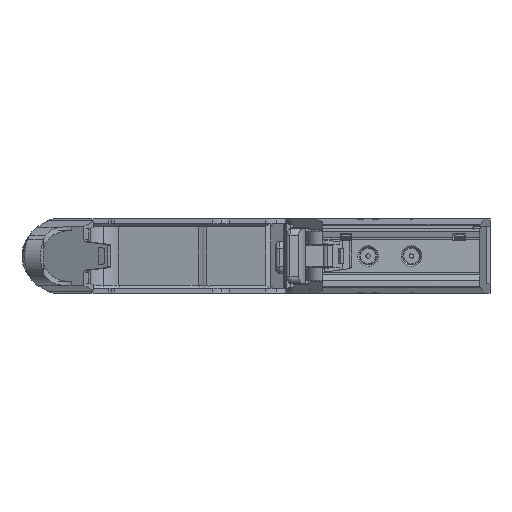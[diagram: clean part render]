
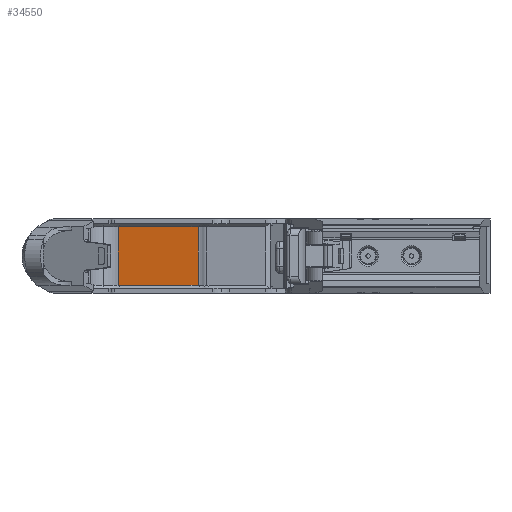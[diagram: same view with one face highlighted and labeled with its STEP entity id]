
A CAD part, left-side view. The second image highlights one B-rep face of the part: STEP entity #34550.
In plain terms, the highlighted planar face has unit normal (-0.486, -0.874, 0) as drawn and (0, -1, 0) by its records, which use the part's own axes.
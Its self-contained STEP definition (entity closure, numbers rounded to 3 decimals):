
#4700 = ORIENTED_EDGE ( 'NONE', *, *, #92545, .F. ) ;
#9916 = VECTOR ( 'NONE', #27023, 1000. ) ;
#26109 = VERTEX_POINT ( 'NONE', #107887 ) ;
#26937 = DIRECTION ( 'NONE',  ( 0., 0., 1. ) ) ;
#27023 = DIRECTION ( 'NONE',  ( -1., 0., 0. ) ) ;
#31135 = AXIS2_PLACEMENT_3D ( 'NONE', #72255, #37482, #92579 ) ;
#34550 = ADVANCED_FACE ( 'NONE', ( #35323 ), #50514, .F. ) ;
#35323 = FACE_OUTER_BOUND ( 'NONE', #67413, .T. ) ;
#37482 = DIRECTION ( 'NONE',  ( 0., 1., 0. ) ) ;
#43169 = VERTEX_POINT ( 'NONE', #110370 ) ;
#44502 = VERTEX_POINT ( 'NONE', #61563 ) ;
#50514 = PLANE ( 'NONE',  #31135 ) ;
#52291 = VECTOR ( 'NONE', #101829, 1000. ) ;
#54429 = EDGE_CURVE ( 'NONE', #26109, #44502, #61178, .T. ) ;
#55539 = CARTESIAN_POINT ( 'NONE',  ( 43.3, 9.7, 4.1 ) ) ;
#61178 = LINE ( 'NONE', #72064, #111804 ) ;
#61563 = CARTESIAN_POINT ( 'NONE',  ( 43.3, 9.7, -4.1 ) ) ;
#65320 = ORIENTED_EDGE ( 'NONE', *, *, #131496, .T. ) ;
#66884 = ORIENTED_EDGE ( 'NONE', *, *, #54429, .T. ) ;
#67413 = EDGE_LOOP ( 'NONE', ( #4700, #66884, #65320, #91636 ) ) ;
#69811 = LINE ( 'NONE', #81403, #9916 ) ;
#72064 = CARTESIAN_POINT ( 'NONE',  ( 20.3, 9.7, -4.1 ) ) ;
#72255 = CARTESIAN_POINT ( 'NONE',  ( 20.3, 9.7, -4.5 ) ) ;
#81403 = CARTESIAN_POINT ( 'NONE',  ( 20.3, 9.7, 4.1 ) ) ;
#91636 = ORIENTED_EDGE ( 'NONE', *, *, #116335, .T. ) ;
#92545 = EDGE_CURVE ( 'NONE', #26109, #43169, #127733, .T. ) ;
#92579 = DIRECTION ( 'NONE',  ( -1., 0., 0. ) ) ;
#93718 = VECTOR ( 'NONE', #26937, 1000. ) ;
#101116 = LINE ( 'NONE', #120744, #52291 ) ;
#101829 = DIRECTION ( 'NONE',  ( 0., 0., 1. ) ) ;
#103278 = DIRECTION ( 'NONE',  ( 1., 0., 0. ) ) ;
#107887 = CARTESIAN_POINT ( 'NONE',  ( 20.3, 9.7, -4.1 ) ) ;
#110370 = CARTESIAN_POINT ( 'NONE',  ( 20.3, 9.7, 4.1 ) ) ;
#111804 = VECTOR ( 'NONE', #103278, 1000. ) ;
#116335 = EDGE_CURVE ( 'NONE', #136261, #43169, #69811, .T. ) ;
#117583 = CARTESIAN_POINT ( 'NONE',  ( 20.3, 9.7, -4.5 ) ) ;
#120744 = CARTESIAN_POINT ( 'NONE',  ( 43.3, 9.7, -4.5 ) ) ;
#127733 = LINE ( 'NONE', #117583, #93718 ) ;
#131496 = EDGE_CURVE ( 'NONE', #44502, #136261, #101116, .T. ) ;
#136261 = VERTEX_POINT ( 'NONE', #55539 ) ;
